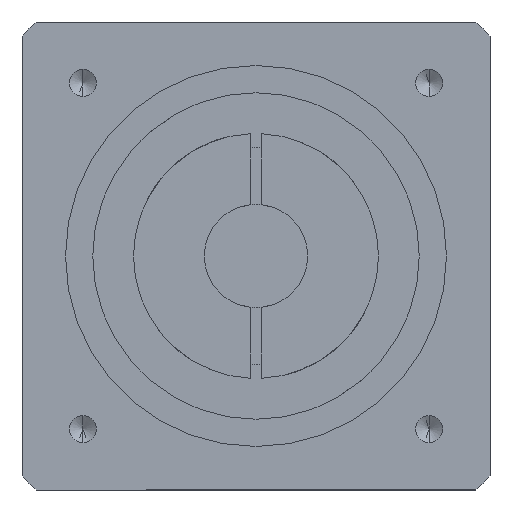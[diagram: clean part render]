
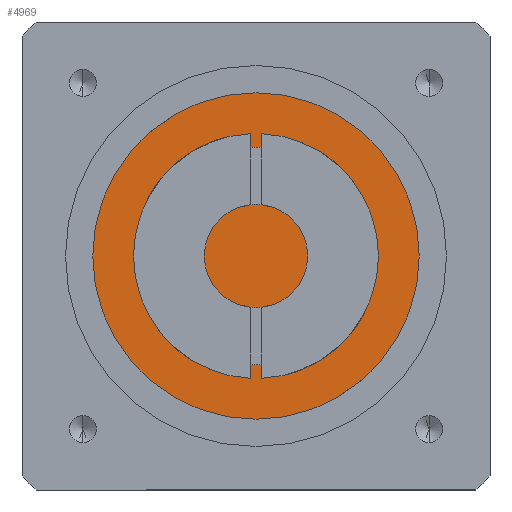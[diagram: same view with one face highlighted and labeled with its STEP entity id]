
A CAD part, front view. The second image highlights one B-rep face of the part: STEP entity #4969.
In plain terms, the highlighted planar face has unit normal (0, -1, 0).
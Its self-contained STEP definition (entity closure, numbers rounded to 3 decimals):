
#327 = EDGE_CURVE ( 'NONE', #3597, #915, #1246, .T. ) ;
#431 = AXIS2_PLACEMENT_3D ( 'NONE', #2970, #2974, #2975 ) ;
#915 = VERTEX_POINT ( 'NONE', #4051 ) ;
#943 = ORIENTED_EDGE ( 'NONE', *, *, #4693, .T. ) ;
#944 = ORIENTED_EDGE ( 'NONE', *, *, #327, .T. ) ;
#1246 = CIRCLE ( 'NONE', #4824, 30. ) ;
#1439 = CIRCLE ( 'NONE', #4873, 30. ) ;
#1977 = CARTESIAN_POINT ( 'NONE',  ( 0., -67.5, 0. ) ) ;
#1978 = DIRECTION ( 'NONE',  ( 0., -1., 0. ) ) ;
#1979 = DIRECTION ( 'NONE',  ( 0., 0., -1. ) ) ;
#2206 = EDGE_LOOP ( 'NONE', ( #943, #944 ) ) ;
#2552 = FACE_OUTER_BOUND ( 'NONE', #2206, .T. ) ;
#2970 = CARTESIAN_POINT ( 'NONE',  ( 0., -67.5, 0. ) ) ;
#2971 = PLANE ( 'NONE',  #431 ) ;
#2974 = DIRECTION ( 'NONE',  ( 0., -1., 0. ) ) ;
#2975 = DIRECTION ( 'NONE',  ( 0., 0., -1. ) ) ;
#3597 = VERTEX_POINT ( 'NONE', #4355 ) ;
#4051 = CARTESIAN_POINT ( 'NONE',  ( 0., -67.5, -30. ) ) ;
#4355 = CARTESIAN_POINT ( 'NONE',  ( 0., -67.5, 30. ) ) ;
#4497 = CARTESIAN_POINT ( 'NONE',  ( 0., -67.5, 0. ) ) ;
#4498 = DIRECTION ( 'NONE',  ( 0., -1., 0. ) ) ;
#4499 = DIRECTION ( 'NONE',  ( 0., 0., -1. ) ) ;
#4693 = EDGE_CURVE ( 'NONE', #915, #3597, #1439, .T. ) ;
#4824 = AXIS2_PLACEMENT_3D ( 'NONE', #1977, #1978, #1979 ) ;
#4873 = AXIS2_PLACEMENT_3D ( 'NONE', #4497, #4498, #4499 ) ;
#4969 = ADVANCED_FACE ( 'NONE', ( #2552 ), #2971, .T. ) ;
